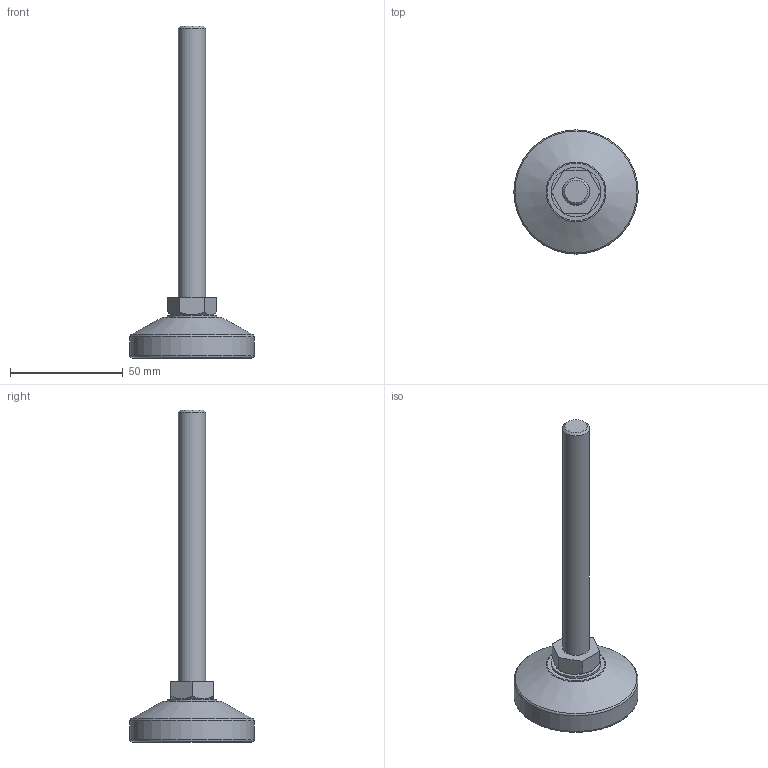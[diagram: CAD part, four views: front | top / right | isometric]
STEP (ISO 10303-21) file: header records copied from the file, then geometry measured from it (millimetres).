
FILE_DESCRIPTION(/* description */ (''),/* implementation_level */ '2;1');
FILE_NAME(/* name */ 'D:\조절자\F\F-M12-120L.stp',/* time_stamp */ '2016-03-14T14:34:11+09:00',/* author */ ('GS-DT-1-001'),/* organization */ (''),/* preprocessor_version */ 'ST-DEVELOPER v15.6',/* originating_system */ 'Autodesk Inventor LT ',/* authorisation */ '');
FILE_SCHEMA (('AUTOMOTIVE_DESIGN { 1 0 10303 214 3 1 1 }'));
Length unit declared in the file: millimetre
Products named in the file (1): F-M12-120L
Bounding box: 55 x 55 x 147 mm (x, y, z)
Volume: 40260.5 mm3; surface area: 14491.1 mm2
Topology: 3 solids, 3 shells, 36 faces, 66 edges, 41 vertices
Faces by surface type: plane 17, cylinder 9, cone 6, torus 4
Full cylindrical faces by diameter (mm): 5.153 x1, 6.1 x1, 6.2 x1, 12 x1, 22 x1, 35 x1, 46 x1, 50 x1, 55 x1
Entity records: 806 total; most frequent: DIRECTION 142, CARTESIAN_POINT 135, ORIENTED_EDGE 92, AXIS2_PLACEMENT_3D 65, EDGE_LOOP 64, EDGE_CURVE 46, VERTEX_POINT 40, FACE_OUTER_BOUND 36
